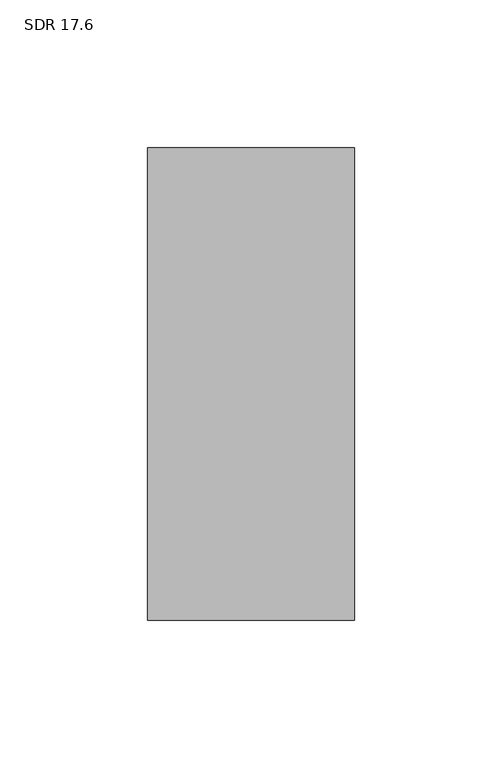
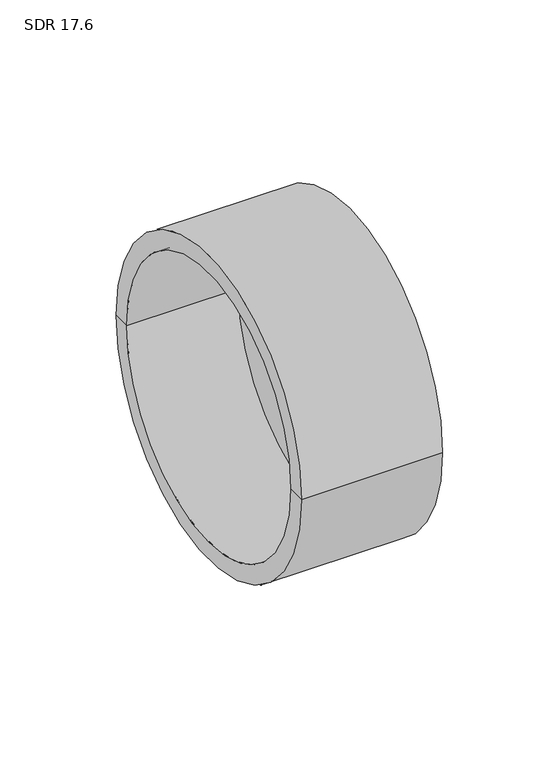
"""IFC4 building model written with IfcOpenShell, lengths in millimetres: pipe fitting geometry, Aquatherm - End Cap Butt-Weld : SDR 17.6."""

from ifc_helpers import new_model, si_unit, frame, origin, place, context, project, spatial, polyline, circle_curve, source, transform, mapped, element, save
from ifc_brep_helpers import plane_surface, cylinder_surface, revolved_surface, advanced_brep


def sdr_17_6_8dbf8687(model_context):
    return source(origin(), model_context, "Body", "AdvancedBrep", [
        advanced_brep(
        [(70.104, -80.01, 0.0), (70.104, 80.01, 0.0), (70.104, 0.0, 0.0), (55.626, 0.0, 0.0), (55.626, 70.866, 0.0), (55.626, -70.866, 0.0), (0.0, 70.866, 0.0), (0.0, -70.866, 0.0), (0.0, 80.01, 0.0), (0.0, -80.01, 0.0)],
        [
            (0, 1, circle_curve(frame((70.104, 0.0, 0.0), z_axis=(1.0, 0.0, 0.0), x_axis=(0.0, 1.0, 0.0)), 80.01)),
            (1, 2),
            (2, 0),
            (1, 0, circle_curve(frame((70.104, 0.0, 0.0), z_axis=(1.0, 0.0, 0.0), x_axis=(0.0, 1.0, 0.0)), 80.01)),
            (3, 4),
            (4, 5, circle_curve(frame((55.626, 0.0, 0.0), z_axis=(-1.0, 0.0, 0.0), x_axis=(0.0, 1.0, 0.0)), 70.866)),
            (5, 3),
            (5, 4, circle_curve(frame((55.626, 0.0, 0.0), z_axis=(-1.0, 0.0, 0.0), x_axis=(0.0, 1.0, 0.0)), 70.866)),
            (4, 6),
            (6, 7, circle_curve(frame((0.0, 0.0, 0.0), z_axis=(-1.0, 0.0, 0.0), x_axis=(0.0, 1.0, 0.0)), 70.866)),
            (7, 5),
            (7, 6, circle_curve(frame((0.0, 0.0, 0.0), z_axis=(-1.0, 0.0, 0.0), x_axis=(0.0, 1.0, 0.0)), 70.866)),
            (6, 8),
            (8, 9, circle_curve(frame((0.0, 0.0, 0.0), z_axis=(-1.0, 0.0, 0.0), x_axis=(0.0, 1.0, 0.0)), 80.01)),
            (9, 7),
            (9, 8, circle_curve(frame((0.0, 0.0, 0.0), z_axis=(-1.0, 0.0, 0.0), x_axis=(0.0, 1.0, 0.0)), 80.01)),
            (8, 1),
            (0, 9),
        ],
        [
            plane_surface(frame((70.104, 0.0, 0.0), z_axis=(1.0, 0.0, 0.0), x_axis=(0.0, 1.0, 0.0))),
            plane_surface(frame((55.626, 0.0, 0.0), z_axis=(-1.0, 0.0, 0.0), x_axis=(0.0, 1.0, 0.0))),
            revolved_surface(polyline([(0.0, 70.866, 0.0), (55.625999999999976, 70.866, 0.0)]), (-1373.886, 0.0, 0.0), (-1.0, 0.0, 0.0)),
            plane_surface(frame((0.0, 0.0, 0.0), z_axis=(-1.0, 0.0, 0.0), x_axis=(0.0, 1.0, 0.0))),
            cylinder_surface(frame((-1373.886, 0.0, 0.0), z_axis=(-1.0, 0.0, 0.0), x_axis=(0.0, 1.0, 0.0)), 80.01),
        ],
        [
            (0, [[1, 2, 3]]),
            (0, [[4, -3, -2]]),
            (1, [[5, 6, 7]]),
            (1, [[-7, 8, -5]]),
            (2, [[-6, 9, 10, 11]]),
            (2, [[-8, -11, 12, -9]]),
            (3, [[-10, 13, 14, 15]]),
            (3, [[-12, -15, 16, -13]]),
            (4, [[-14, 17, -1, 18]]),
            (4, [[-16, -18, -4, -17]]),
        ],
    ),
    ])


if __name__ == "__main__":
    model = new_model("IFC4")
    model_context = context("Model", 3, world=origin())
    ifc_project = project(units=[si_unit("LENGTHUNIT", "METRE", prefix="MILLI")], contexts=[model_context])
    site = spatial("IfcSite", under=ifc_project)
    building = spatial("IfcBuilding", under=site)
    placement = place(None, origin())
    sdr_17_6_shape = sdr_17_6_8dbf8687(model_context)
    element("IfcPipeFitting", 1, ObjectType="Aquatherm - End Cap Butt-Weld : SDR 17.6", at=placement, inside=building, context=model_context, shape_type="MappedRepresentation", body=[
        mapped(sdr_17_6_shape, transform((0.0, 0.0, 0.0), x_axis=(1.0, 0.0, 0.0), y_axis=(0.0, 1.0, 0.0), z_axis=(0.0, 0.0, 1.0))),
    ])
    save(model, "model.ifc")
